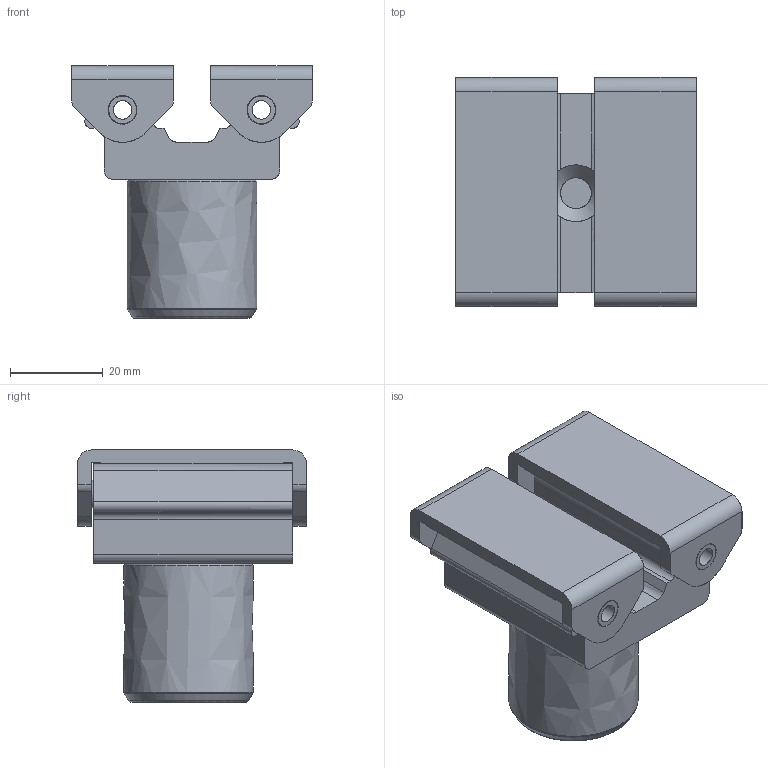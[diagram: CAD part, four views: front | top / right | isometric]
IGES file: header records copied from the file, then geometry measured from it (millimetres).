
Start section: ZWSOFT
Global section: file name: TW28VAD.igs; native system: ZW3D; preprocessor: 1.0; author: ZW3D; organization: ZWSOFT; date: 140414.144140; units: millimetre
Bounding box: 52 x 49.5 x 54.5 mm (x, y, z)
Surface area: 22680.3 mm2 (no closed solid volume)
Topology: 0 solids, 0 shells, 126 faces, 760 edges, 709 vertices
Faces by surface type: bspline 126
